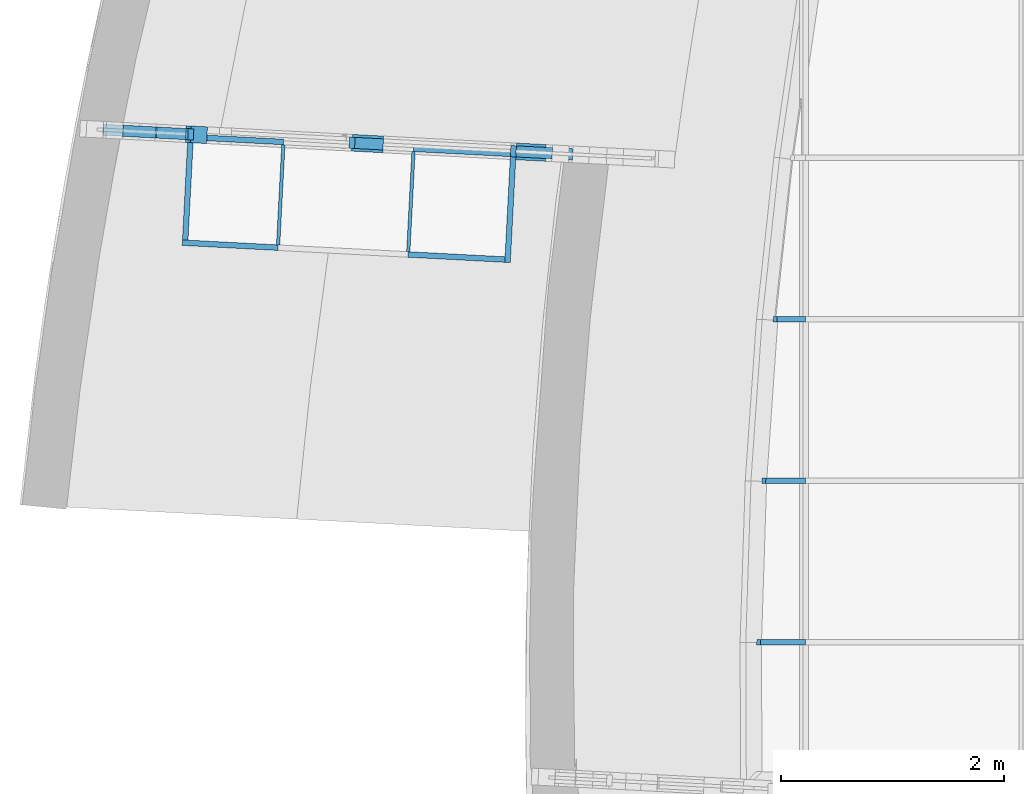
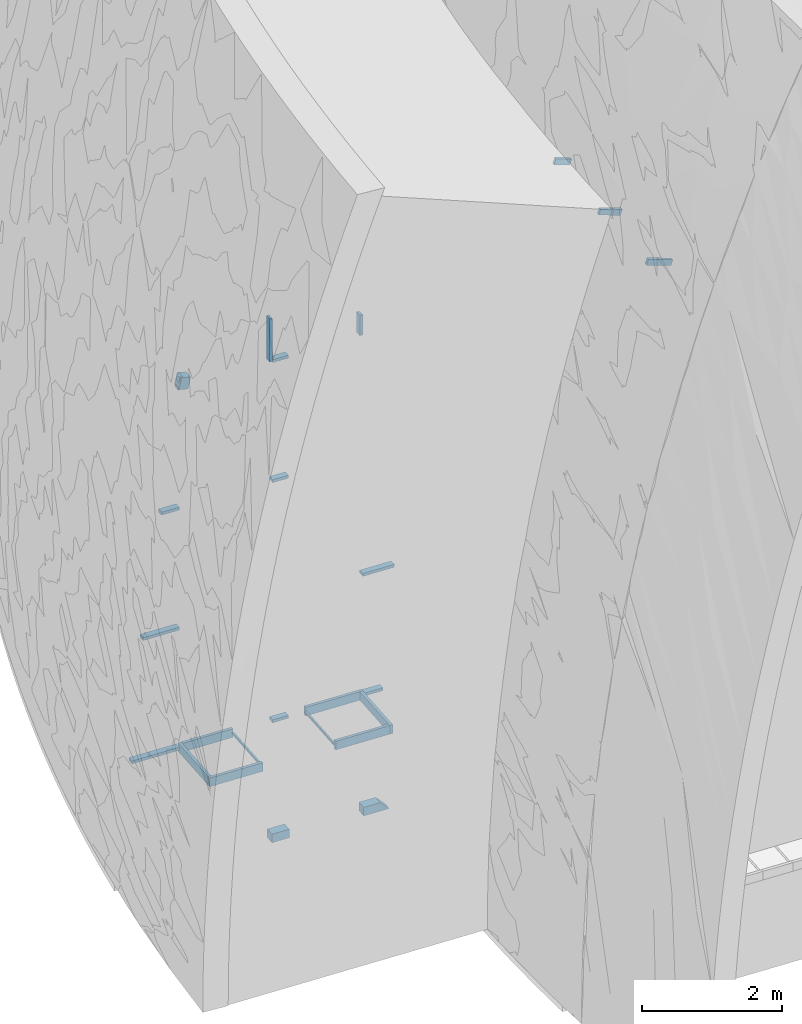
# One storey, part 26 of 82: 27 members, 3 elements without a shape of their own.
"""IFC2X3 building model written with IfcOpenShell, lengths in millimetres."""

from ifc_helpers import new_model, entity, si_unit, converted_unit, derived_unit, direction, frame, origin, origin_2d_with_axis, place, context, subcontext, project, spatial, polyline, rectangle, extrude, clip, halfspace, bounded_halfspace, source, transform, mapped, material, type_object, type_shapes, element, aggregate, save


model = new_model("IFC2X3")

# Units and contexts
model_context = context("Model", 3, precision=0.01, world=origin(), true_north=direction((6.12303176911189e-17, 1.0)))
body_context = subcontext(model_context, "Body", "Model", "MODEL_VIEW")
ifc_project = project(units=[si_unit("LENGTHUNIT", "METRE", prefix="MILLI"), si_unit("AREAUNIT", "SQUARE_METRE"), si_unit("VOLUMEUNIT", "CUBIC_METRE"), converted_unit("PLANEANGLEUNIT", "DEGREE", entity("IfcRatioMeasure", 0.0174532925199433), si_unit("PLANEANGLEUNIT", "RADIAN"), dimensions=[0, 0, 0, 0, 0, 0, 0]), si_unit("MASSUNIT", "GRAM", prefix="KILO"), derived_unit("MASSDENSITYUNIT", [(si_unit("MASSUNIT", "GRAM", prefix="KILO"), 1), (si_unit("LENGTHUNIT", "METRE"), -3)]), si_unit("TIMEUNIT", "SECOND"), si_unit("FREQUENCYUNIT", "HERTZ"), si_unit("THERMODYNAMICTEMPERATUREUNIT", "DEGREE_CELSIUS"), derived_unit("THERMALTRANSMITTANCEUNIT", [(si_unit("MASSUNIT", "GRAM", prefix="KILO"), 1), (si_unit("THERMODYNAMICTEMPERATUREUNIT", "KELVIN"), -1), (si_unit("TIMEUNIT", "SECOND"), -3)]), derived_unit("VOLUMETRICFLOWRATEUNIT", [(si_unit("LENGTHUNIT", "METRE"), 3), (si_unit("TIMEUNIT", "SECOND"), -1)]), si_unit("ELECTRICCURRENTUNIT", "AMPERE"), si_unit("ELECTRICVOLTAGEUNIT", "VOLT"), si_unit("POWERUNIT", "WATT"), si_unit("FORCEUNIT", "NEWTON", prefix="KILO"), si_unit("ILLUMINANCEUNIT", "LUX"), si_unit("LUMINOUSFLUXUNIT", "LUMEN"), si_unit("LUMINOUSINTENSITYUNIT", "CANDELA"), derived_unit("USERDEFINED", [(si_unit("MASSUNIT", "GRAM", prefix="KILO"), -1), (si_unit("LENGTHUNIT", "METRE"), -2), (si_unit("TIMEUNIT", "SECOND"), 3), (si_unit("LUMINOUSFLUXUNIT", "LUMEN"), 1)]), derived_unit("LINEARVELOCITYUNIT", [(si_unit("LENGTHUNIT", "METRE"), 1), (si_unit("TIMEUNIT", "SECOND"), -1)]), si_unit("PRESSUREUNIT", "PASCAL"), derived_unit("USERDEFINED", [(si_unit("LENGTHUNIT", "METRE"), -2), (si_unit("MASSUNIT", "GRAM", prefix="KILO"), 1), (si_unit("TIMEUNIT", "SECOND"), -2)])], contexts=[model_context])

# Site, building, storey
site_placement = place(None, origin())
site = spatial("IfcSite", under=ifc_project, at=site_placement, Name="表面", CompositionType="ELEMENT")
building_placement = place(site_placement, origin())
building = spatial("IfcBuilding", under=site, at=building_placement, CompositionType="ELEMENT")
storey_placement = place(building_placement, origin())
storey = spatial("IfcBuildingStorey", under=building, at=storey_placement, Name="1F", CompositionType="ELEMENT", Elevation=0.0)

# Curtain wall, members
curtain_wall_type_1 = type_object("IfcCurtainWallType", Name="幕墙系统:1450 x 2100mm", PredefinedType="NOTDEFINED")
curtain_wall_1_placement = place(storey_placement, origin())
curtain_wall_1 = element("IfcCurtainWall", 1, at=curtain_wall_1_placement, inside=storey, type_object=curtain_wall_type_1, Name="幕墙系统:1450 x 2100mm", ObjectType="幕墙系统:1450 x 2100mm")
ifc_material_1 = material(Name="木质 - 木材")
member_type_1 = type_object("IfcMemberType", Name="200 x 150mm", PredefinedType="MEMBER")
shared_shape_1 = source(origin(), body_context, "Body", "Clipping", [
    clip(extrude(rectangle(XDim=150.0, YDim=150.0, at=origin_2d_with_axis()), frame((-75.0, 0.0, -412.198359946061), z_axis=(0.0, 0.0, 1.0), x_axis=(0.0, -1.0, 0.0)), (0.0, 0.0, 1.0), 412.19835994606), halfspace(frame((0.0, -304.8, -412.198359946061), z_axis=(-0.6968225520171, 0.0, -0.717243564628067), x_axis=(-0.717243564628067, 0.0, 0.6968225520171)), False)),
])
type_shapes(member_type_1, [shared_shape_1])
member_1_placement = place(storey_placement, frame((-41311.980661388, -14439.9416476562, 0.0), z_axis=(-0.998629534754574, 0.0523359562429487, 0.0), x_axis=(0.0, 0.0, -1.0)))
member_1 = element("IfcMember", 2, at=member_1_placement, type_object=member_type_1, material=ifc_material_1, Name="矩形竖梃:200 x 150mm", ObjectType="200 x 150mm", context=body_context, shape_type="MappedRepresentation", body=[
    mapped(shared_shape_1, transform((0.0, 0.0, 0.0), scale=1.0)),
])
ifc_material_2 = material(Name="金属 - 铝")
member_type_2 = type_object("IfcMemberType", Name="50 x 100mm", PredefinedType="MEMBER")
shared_shape_2 = source(origin(), body_context, "Body", "Clipping", [
    clip(clip(extrude(rectangle(XDim=100.0, YDim=50.0, at=origin_2d_with_axis()), frame((0.0, 0.0, -472.864649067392), z_axis=(0.0, 0.0, 1.0), x_axis=(0.0, -1.0, 0.0)), (0.0, 0.0, 1.0), 324.472527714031), bounded_halfspace(frame((8.67025795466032, 75.0, -149.812106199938), z_axis=(-0.0866300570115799, 0.0, 0.996240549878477), x_axis=(0.996240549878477, 0.0, 0.0866300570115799)), False, frame((0.0, 0.0, -472.864649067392), z_axis=(0.0, 0.0, 1.0), x_axis=(0.0, -1.0, 0.0)), polyline([(-50.0, 25.0), (-50.0, 8.67025795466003), (50.0, 8.67025795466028), (50.0, 25.0), (-50.0, 25.0)]))), bounded_halfspace(frame((-2095.66850069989, 75.0, -210.603736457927), z_axis=(-0.0288766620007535, 0.0, 0.999582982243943), x_axis=(0.999582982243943, 0.0, 0.0288766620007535)), False, frame((0.0, 0.0, -472.864649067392), z_axis=(0.0, 0.0, 1.0), x_axis=(0.0, -1.0, 0.0)), polyline([(-50.0, 8.67025795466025), (-50.0, -25.0), (50.0, -25.0), (50.0, 8.67025795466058), (-50.0, 8.67025795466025)]))),
])
type_shapes(member_type_2, [shared_shape_2])
member_2_placement = place(storey_placement, frame((-40839.764056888, -14464.6894712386, 2100.0), z_axis=(0.998629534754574, -0.0523359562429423, 0.0), x_axis=(0.0, 0.0, 1.0)))
member_2 = element("IfcMember", 3, at=member_2_placement, type_object=member_type_2, material=ifc_material_2, Name="矩形竖梃:50 x 100mm", ObjectType="50 x 100mm", context=body_context, shape_type="MappedRepresentation", body=[
    mapped(shared_shape_2, transform((0.0, 0.0, 0.0), scale=1.0)),
])
member_type_3 = type_object("IfcMemberType", Name="50 x 100mm", PredefinedType="MEMBER")
shared_shape_3 = source(origin(), body_context, "Body", "Clipping", [
    clip(clip(extrude(rectangle(XDim=100.0, YDim=50.0, at=origin_2d_with_axis()), frame((0.0, 0.0, -655.474280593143), z_axis=(0.0, 0.0, 1.0), x_axis=(0.0, -1.0, 0.0)), (0.0, 0.0, 1.0), 507.533720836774), bounded_halfspace(frame((17.3407298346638, 75.0, -149.058148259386), z_axis=(-0.144384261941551, 0.0, 0.989521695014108), x_axis=(0.989521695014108, 0.0, 0.144384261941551)), False, frame((0.0, 0.0, -655.474280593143), z_axis=(0.0, 0.0, 1.0), x_axis=(0.0, -1.0, 0.0)), polyline([(-50.0, 25.0), (-50.0, 17.3407298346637), (50.0, 17.3407298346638), (50.0, 25.0), (-50.0, 25.0)]))), bounded_halfspace(frame((-2087.00549144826, 75.0, -332.045714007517), z_axis=(-0.0866300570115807, 0.0, 0.996240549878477), x_axis=(0.996240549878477, 0.0, 0.0866300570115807)), False, frame((0.0, 0.0, -655.474280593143), z_axis=(0.0, 0.0, 1.0), x_axis=(0.0, -1.0, 0.0)), polyline([(-50.0, 17.3407298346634), (-50.0, -25.0), (50.0, -25.0), (50.0, 17.3407298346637), (-50.0, 17.3407298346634)]))),
])
type_shapes(member_type_3, [shared_shape_3])
placement_1 = place(building_placement, frame((0.0, 0.0, 3000.0)))
member_3_placement = place(placement_1, frame((-40657.4046855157, -14474.2465209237, 1200.0), z_axis=(0.998629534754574, -0.0523359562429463, 0.0), x_axis=(0.0, 0.0, 1.0)))
member_3 = element("IfcMember", 4, at=member_3_placement, type_object=member_type_3, material=ifc_material_2, Name="矩形竖梃:50 x 100mm", ObjectType="50 x 100mm", context=body_context, shape_type="MappedRepresentation", body=[
    mapped(shared_shape_3, transform((0.0, 0.0, 0.0), scale=1.0)),
])
member_type_4 = type_object("IfcMemberType", Name="50 x 100mm", PredefinedType="MEMBER")
shared_shape_4 = source(origin(), body_context, "Body", "Clipping", [
    clip(extrude(rectangle(XDim=100.0, YDim=50.0, at=origin_2d_with_axis()), frame((0.0, 0.0, -512.028182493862), z_axis=(0.0, 0.0, 1.0), x_axis=(0.0, -1.0, 0.0)), (0.0, 0.0, 1.0), 363.440552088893), halfspace(frame((-1411.22679135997, 75.0, -532.896035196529), z_axis=(-0.25848805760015, 0.0, 0.966014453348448), x_axis=(0.966014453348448, 0.0, 0.25848805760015)), False)),
])
type_shapes(member_type_4, [shared_shape_4])
placement_2 = place(building_placement, frame((0.0, 0.0, 6000.0)))
member_4_placement = place(placement_2, frame((-41336.9463997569, -14438.6332487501, 2912.02818249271), z_axis=(0.0, 0.0, 1.0), x_axis=(-0.998629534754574, 0.0523359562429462, 0.0)))
member_4 = element("IfcMember", 5, at=member_4_placement, type_object=member_type_4, material=ifc_material_2, Name="矩形竖梃:50 x 100mm", ObjectType="50 x 100mm", context=body_context, shape_type="MappedRepresentation", body=[
    mapped(shared_shape_4, transform((0.0, 0.0, 0.0), scale=1.0)),
])
member_type_5 = type_object("IfcMemberType", Name="200 x 150mm", PredefinedType="MEMBER")
shared_shape_5 = source(origin(), body_context, "Body", "SweptSolid", [
    extrude(rectangle(XDim=150.0, YDim=150.0, at=origin_2d_with_axis()), frame((-75.0, 0.0, -280.0), z_axis=(0.0, 0.0, 1.0), x_axis=(0.0, -1.0, 0.0)), (0.0, 0.0, 1.0), 280.000000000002),
])
type_shapes(member_type_5, [shared_shape_5])
member_5_placement = place(storey_placement, frame((-42784.959225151, -14362.7461121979, 0.0), z_axis=(-0.998629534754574, 0.0523359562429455, 0.0), x_axis=(0.0, 0.0, -1.0)))
member_5 = element("IfcMember", 6, at=member_5_placement, type_object=member_type_5, material=ifc_material_1, Name="矩形竖梃:200 x 150mm", ObjectType="200 x 150mm", context=body_context, shape_type="MappedRepresentation", body=[
    mapped(shared_shape_5, transform((0.0, 0.0, 0.0), scale=1.0)),
])
member_type_6 = type_object("IfcMemberType", Name="200 x 150mm", PredefinedType="MEMBER")
shared_shape_6 = source(origin(), body_context, "Body", "SweptSolid", [
    extrude(rectangle(XDim=150.0, YDim=150.0, at=origin_2d_with_axis()), frame((-75.0, 0.0, -202.271280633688), z_axis=(0.0, 0.0, 1.0), x_axis=(0.0, -1.0, 0.0)), (0.0, 0.0, 1.0), 202.271280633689),
])
type_shapes(member_type_6, [shared_shape_6])
member_6_placement = place(placement_2, frame((-44232.9720505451, -14286.8589756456, 2597.03640641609), z_axis=(0.225723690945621, -0.0118296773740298, 0.974119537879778), x_axis=(-0.972784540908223, 0.050981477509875, 0.226033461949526)))
member_6 = element("IfcMember", 7, at=member_6_placement, type_object=member_type_6, material=ifc_material_1, Name="矩形竖梃:200 x 150mm", ObjectType="200 x 150mm", context=body_context, shape_type="MappedRepresentation", body=[
    mapped(shared_shape_6, transform((0.0, 0.0, 0.0), scale=1.0)),
])
member_type_7 = type_object("IfcMemberType", Name="50 x 100mm", PredefinedType="MEMBER")
shared_shape_7 = source(origin(), body_context, "Body", "Clipping", [
    clip(clip(extrude(rectangle(XDim=100.0, YDim=50.0, at=origin_2d_with_axis()), frame((0.0, 0.0, -763.011763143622), z_axis=(0.0, 0.0, 1.0), x_axis=(0.0, -1.0, 0.0)), (0.0, 0.0, 1.0), 763.011763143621), bounded_halfspace(frame((-8.387828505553, 75.0, -762.54747933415), z_axis=(0.0279375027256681, 0.0, -0.999609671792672), x_axis=(-0.999609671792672, 0.0, -0.0279375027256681)), False, frame((0.0, 0.0, -763.011763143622), z_axis=(0.0, 0.0, 1.0), x_axis=(0.0, -1.0, 0.0)), polyline([(50.0, -8.38782850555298), (50.0, -25.0), (-50.0, -25.0), (-50.0, -8.38782850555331), (50.0, -8.38782850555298)]))), bounded_halfspace(frame((2087.42810296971, 75.0, -586.271376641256), z_axis=(0.0838126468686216, 0.0, -0.996481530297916), x_axis=(-0.996481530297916, 0.0, -0.0838126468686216)), False, frame((0.0, 0.0, -763.011763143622), z_axis=(0.0, 0.0, 1.0), x_axis=(0.0, -1.0, 0.0)), polyline([(-50.0, 25.0), (50.0, 25.0), (50.0, -8.38782850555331), (-50.0, -8.38782850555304), (-50.0, 25.0)]))),
])
type_shapes(member_type_7, [shared_shape_7])
member_7_placement = place(storey_placement, frame((-44257.937788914, -14285.5505767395, 2100.0), z_axis=(0.998629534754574, -0.052335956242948, 0.0), x_axis=(0.0, 0.0, 1.0)))
member_7 = element("IfcMember", 8, at=member_7_placement, type_object=member_type_7, material=ifc_material_2, Name="矩形竖梃:50 x 100mm", ObjectType="50 x 100mm", context=body_context, shape_type="MappedRepresentation", body=[
    mapped(shared_shape_7, transform((0.0, 0.0, 0.0), scale=1.0)),
])
member_type_8 = type_object("IfcMemberType", Name="50 x 100mm", PredefinedType="MEMBER")
shared_shape_8 = source(origin(), body_context, "Body", "Clipping", [
    clip(clip(extrude(rectangle(XDim=100.0, YDim=50.0, at=origin_2d_with_axis()), frame((0.0, 0.0, -587.316686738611), z_axis=(0.0, 0.0, 1.0), x_axis=(0.0, -1.0, 0.0)), (0.0, 0.0, 1.0), 587.316686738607), bounded_halfspace(frame((-16.7758398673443, 75.0, -586.624964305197), z_axis=(0.0838126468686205, 0.0, -0.996481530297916), x_axis=(-0.996481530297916, 0.0, -0.0838126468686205)), False, frame((0.0, 0.0, -587.316686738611), z_axis=(0.0, 0.0, 1.0), x_axis=(0.0, -1.0, 0.0)), polyline([(50.0, -16.7758398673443), (50.0, -25.0), (-50.0, -25.0), (-50.0, -16.7758398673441), (50.0, -16.7758398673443)]))), bounded_halfspace(frame((2079.04673668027, 75.0, -290.964010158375), z_axis=(0.139688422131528, 0.0, -0.990195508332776), x_axis=(-0.990195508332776, 0.0, -0.139688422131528)), False, frame((0.0, 0.0, -587.316686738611), z_axis=(0.0, 0.0, 1.0), x_axis=(0.0, -1.0, 0.0)), polyline([(-50.0, 25.0), (50.0, 25.0), (50.0, -16.7758398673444), (-50.0, -16.7758398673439), (-50.0, 25.0)]))),
])
type_shapes(member_type_8, [shared_shape_8])
member_8_placement = place(placement_1, frame((-44257.937788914, -14285.5505767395, 1200.0), z_axis=(0.998629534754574, -0.0523359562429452, 0.0), x_axis=(0.0, 0.0, 1.0)))
member_8 = element("IfcMember", 9, at=member_8_placement, type_object=member_type_8, material=ifc_material_2, Name="矩形竖梃:50 x 100mm", ObjectType="50 x 100mm", context=body_context, shape_type="MappedRepresentation", body=[
    mapped(shared_shape_8, transform((0.0, 0.0, 0.0), scale=1.0)),
])
member_type_9 = type_object("IfcMemberType", Name="50 x 100mm", PredefinedType="MEMBER")
shared_shape_9 = source(origin(), body_context, "Body", "Clipping", [
    clip(extrude(rectangle(XDim=100.0, YDim=50.0, at=origin_2d_with_axis()), frame((0.0, 0.0, -291.525307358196), z_axis=(0.0, 0.0, 1.0), x_axis=(0.0, -1.0, 0.0)), (0.0, 0.0, 1.0), 291.525307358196), halfspace(frame((2070.66521169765, 75.0, 126.383525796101), z_axis=(0.195565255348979, 0.0, -0.980690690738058), x_axis=(-0.980690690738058, 0.0, -0.195565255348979)), False)),
])
type_shapes(member_type_9, [shared_shape_9])
member_9_placement = place(placement_2, frame((-44257.937788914, -14285.5505767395, 300.0), z_axis=(0.998629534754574, -0.0523359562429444, 0.0), x_axis=(0.0, 0.0, 1.0)))
member_9 = element("IfcMember", 10, at=member_9_placement, type_object=member_type_9, material=ifc_material_2, Name="矩形竖梃:50 x 100mm", ObjectType="50 x 100mm", context=body_context, shape_type="MappedRepresentation", body=[
    mapped(shared_shape_9, transform((0.0, 0.0, 0.0), scale=1.0)),
])
member_type_10 = type_object("IfcMemberType", Name="50 x 100mm", PredefinedType="MEMBER")
shared_shape_10 = source(origin(), body_context, "Body", "SweptSolid", [
    extrude(rectangle(XDim=100.0, YDim=50.0, at=origin_2d_with_axis()), frame((0.0, 0.0, -20.7200778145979), z_axis=(0.0, 0.0, 1.0), x_axis=(0.0, -1.0, 0.0)), (0.0, 0.0, 1.0), 20.7200778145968),
])
type_shapes(member_type_10, [shared_shape_10])
member_10_placement = place(placement_2, frame((-44257.937788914, -14285.5505767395, 2400.0), z_axis=(0.998629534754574, -0.0523359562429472, 0.0), x_axis=(0.0, 0.0, 1.0)))
member_10 = element("IfcMember", 11, at=member_10_placement, type_object=member_type_10, material=ifc_material_2, Name="矩形竖梃:50 x 100mm", ObjectType="50 x 100mm", context=body_context, shape_type="MappedRepresentation", body=[
    mapped(shared_shape_10, transform((0.0, 0.0, 0.0), scale=1.0)),
])
member_type_11 = type_object("IfcMemberType", Name="50 x 100mm", PredefinedType="MEMBER")
shared_shape_11 = source(origin(), body_context, "Body", "Clipping", [
    clip(extrude(rectangle(XDim=100.0, YDim=50.0, at=origin_2d_with_axis()), frame((0.0, 0.0, -900.022049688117), z_axis=(0.0, 0.0, 1.0), x_axis=(0.0, -1.0, 0.0)), (0.0, 0.0, 1.0), 751.43441928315), halfspace(frame((-241.226791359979, 75.0, -219.825121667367), z_axis=(-0.258488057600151, 0.0, 0.966014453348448), x_axis=(0.966014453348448, 0.0, 0.258488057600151)), False)),
])
type_shapes(member_type_11, [shared_shape_11])
member_11_placement = place(placement_2, frame((-42784.959225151, -14362.7461121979, 3300.02204968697), z_axis=(0.0, 0.0, 1.0), x_axis=(-0.998629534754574, 0.0523359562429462, 0.0)))
member_11 = element("IfcMember", 12, at=member_11_placement, type_object=member_type_11, material=ifc_material_2, Name="矩形竖梃:50 x 100mm", ObjectType="50 x 100mm", context=body_context, shape_type="MappedRepresentation", body=[
    mapped(shared_shape_11, transform((0.0, 0.0, 0.0), scale=1.0)),
])
member_type_12 = type_object("IfcMemberType", Name="50 x 100mm", PredefinedType="MEMBER")
shared_shape_12 = source(origin(), body_context, "Body", "SweptSolid", [
    extrude(rectangle(XDim=100.0, YDim=50.0, at=origin_2d_with_axis()), frame((0.0, 0.0, -197.03640641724), z_axis=(0.0, 0.0, 1.0), x_axis=(0.0, -1.0, 0.0)), (0.0, 0.0, 1.0), 197.03640641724),
])
type_shapes(member_type_12, [shared_shape_12])
member_12_placement = place(placement_2, frame((-44232.9720505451, -14286.8589756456, 2597.03640641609), z_axis=(0.0, 0.0, 1.0), x_axis=(-0.998629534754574, 0.0523359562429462, 0.0)))
member_12 = element("IfcMember", 13, at=member_12_placement, type_object=member_type_12, material=ifc_material_2, Name="矩形竖梃:50 x 100mm", ObjectType="50 x 100mm", context=body_context, shape_type="MappedRepresentation", body=[
    mapped(shared_shape_12, transform((0.0, 0.0, 0.0), scale=1.0)),
])
member_type_13 = type_object("IfcMemberType", Name="50 x 100mm", PredefinedType="MEMBER")
shared_shape_13 = source(origin(), body_context, "Body", "SweptSolid", [
    extrude(rectangle(XDim=100.0, YDim=50.0, at=origin_2d_with_axis()), frame((0.0, 0.0, -255.0), z_axis=(0.0, 0.0, 1.0), x_axis=(0.0, -1.0, 0.0)), (0.0, 0.0, 1.0), 255.000000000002),
])
type_shapes(member_type_13, [shared_shape_13])
member_13_placement = place(storey_placement, frame((-42505.3429554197, -14377.4001799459, 2100.0), z_axis=(0.998629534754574, -0.0523359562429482, 0.0), x_axis=(0.0, 0.0, 1.0)))
member_13 = element("IfcMember", 14, at=member_13_placement, type_object=member_type_13, material=ifc_material_2, Name="矩形竖梃:50 x 100mm", ObjectType="50 x 100mm", context=body_context, shape_type="MappedRepresentation", body=[
    mapped(shared_shape_13, transform((0.0, 0.0, 0.0), scale=1.0)),
])
member_14_placement = place(placement_2, frame((-42505.3429554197, -14377.4001799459, 300.0), z_axis=(0.998629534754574, -0.0523359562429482, 0.0), x_axis=(0.0, 0.0, 1.0)))
member_14 = element("IfcMember", 15, at=member_14_placement, type_object=member_type_13, material=ifc_material_2, Name="矩形竖梃:50 x 100mm", ObjectType="50 x 100mm", context=body_context, shape_type="MappedRepresentation", body=[
    mapped(shared_shape_13, transform((0.0, 0.0, 0.0), scale=1.0)),
])
member_15_placement = place(placement_2, frame((-42505.3429554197, -14377.4001799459, 2400.0), z_axis=(0.998629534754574, -0.0523359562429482, 0.0), x_axis=(0.0, 0.0, 1.0)))
member_15 = element("IfcMember", 16, at=member_15_placement, type_object=member_type_13, material=ifc_material_2, Name="矩形竖梃:50 x 100mm", ObjectType="50 x 100mm", context=body_context, shape_type="MappedRepresentation", body=[
    mapped(shared_shape_13, transform((0.0, 0.0, 0.0), scale=1.0)),
])
member_type_14 = type_object("IfcMemberType", Name="50 x 100mm", PredefinedType="MEMBER")
shared_shape_14 = source(origin(), body_context, "Body", "Clipping", [
    clip(extrude(rectangle(XDim=100.0, YDim=50.0, at=origin_2d_with_axis()), frame((0.0, 0.0, -900.022049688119), z_axis=(0.0, 0.0, 1.0), x_axis=(0.0, -1.0, 0.0)), (0.0, 0.0, 1.0), 751.434419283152), halfspace(frame((-1411.22679135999, 75.0, -532.896035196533), z_axis=(-0.25848805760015, 0.0, 0.966014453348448), x_axis=(0.966014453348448, 0.0, 0.25848805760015)), False)),
])
type_shapes(member_type_14, [shared_shape_14])
member_16_placement = place(placement_2, frame((-42784.959225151, -14362.7461121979, 3300.02204968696), z_axis=(0.0, 0.0, 1.0), x_axis=(-0.998629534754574, 0.0523359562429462, 0.0)))
member_16 = element("IfcMember", 17, at=member_16_placement, type_object=member_type_14, material=ifc_material_2, Name="矩形竖梃:50 x 100mm", ObjectType="50 x 100mm", context=body_context, shape_type="MappedRepresentation", body=[
    mapped(shared_shape_14, transform((0.0, 0.0, 0.0), scale=1.0)),
])
aggregate(curtain_wall_1, [member_1, member_2, member_3, member_4, member_5, member_6, member_7, member_8, member_9, member_10, member_11, member_12, member_13, member_14, member_15, member_16])

# Roof, member
curtain_wall_type_2 = type_object("IfcCurtainWallType", Name="玻璃斜窗:玻璃斜窗 2", PredefinedType="NOTDEFINED")
roof_placement = place(storey_placement, origin())
roof = element("IfcRoof", 18, at=roof_placement, inside=storey, type_object=curtain_wall_type_2, Name="玻璃斜窗:玻璃斜窗 2", ObjectType="玻璃斜窗:玻璃斜窗 2", ShapeType="NOTDEFINED")
member_type_15 = type_object("IfcMemberType", Name="50 x 150mm", PredefinedType="MEMBER")
shared_shape_15 = source(origin(), body_context, "Body", "SweptSolid", [
    extrude(rectangle(XDim=150.0, YDim=50.0, at=origin_2d_with_axis()), frame((-25.0, 0.0, -860.0), z_axis=(0.0, 0.0, 1.0), x_axis=(0.0, -1.0, 0.0)), (0.0, 0.0, 1.0), 859.999999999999),
])
type_shapes(member_type_15, [shared_shape_15])
member_17_placement = place(storey_placement, frame((-43451.452345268, -15329.189033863, 2100.0), z_axis=(0.998629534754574, -0.0523359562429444, 0.0), x_axis=(-0.0523359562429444, -0.998629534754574, 0.0)))
member_17 = element("IfcMember", 19, at=member_17_placement, type_object=member_type_15, material=ifc_material_2, Name="矩形竖梃:50 x 150mm", ObjectType="50 x 150mm", context=body_context, shape_type="MappedRepresentation", body=[
    mapped(shared_shape_15, transform((0.0, 0.0, 0.0), scale=1.0)),
])

# Curtain wall, members
curtain_wall_2_placement = place(storey_placement, origin())
curtain_wall_2 = element("IfcCurtainWall", 20, at=curtain_wall_2_placement, inside=storey, type_object=curtain_wall_type_1, Name="幕墙系统:1450 x 2100mm", ObjectType="幕墙系统:1450 x 2100mm")
member_type_16 = type_object("IfcMemberType", Name="50 x 100mm", PredefinedType="MEMBER")
shared_shape_16 = source(origin(), body_context, "Body", "Clipping", [
    clip(clip(extrude(rectangle(XDim=100.0, YDim=50.0, at=origin_2d_with_axis()), frame((0.0, 0.0, -424.801227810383), z_axis=(0.0, 0.0, 1.0), x_axis=(0.0, -1.0, 0.0)), (0.0, 0.0, 1.0), 276.240078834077), bounded_halfspace(frame((-1432.97093506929, 75.0, -314.715702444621), z_axis=(-0.113527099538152, 0.0, 0.993534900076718), x_axis=(0.993534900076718, 0.0, 0.113527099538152)), False, frame((0.0, 0.0, -424.801227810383), z_axis=(0.0, 0.0, 1.0), x_axis=(0.0, -1.0, 0.0)), polyline([(-50.0, 14.0496221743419), (-50.0, -25.0), (50.0, -25.0), (50.0, 14.0496221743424), (-50.0, 14.0496221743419)]))), bounded_halfspace(frame((14.0496221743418, 75.0, -149.370683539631), z_axis=(-0.0737263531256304, 0.0, 0.997278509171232), x_axis=(0.997278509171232, 0.0, 0.0737263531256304)), False, frame((0.0, 0.0, -424.801227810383), z_axis=(0.0, 0.0, 1.0), x_axis=(0.0, -1.0, 0.0)), polyline([(-50.0, 25.0), (-50.0, 14.0496221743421), (50.0, 14.0496221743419), (50.0, 25.0), (-50.0, 25.0)]))),
])
type_shapes(member_type_16, [shared_shape_16])
placement_3 = place(building_placement, frame((0.0, 0.0, 9000.0)))
member_18_placement = place(placement_3, frame((-39129.162502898, -15946.8767198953, 2562.11871273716), z_axis=(-0.939692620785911, 0.0, 0.34202014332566), x_axis=(0.0, -1.0, 0.0)))
member_18 = element("IfcMember", 21, at=member_18_placement, type_object=member_type_16, material=ifc_material_2, Name="矩形竖梃:50 x 100mm", ObjectType="50 x 100mm", context=body_context, shape_type="MappedRepresentation", body=[
    mapped(shared_shape_16, transform((0.0, 0.0, 0.0), scale=1.0)),
])
member_type_17 = type_object("IfcMemberType", Name="50 x 100mm", PredefinedType="MEMBER")
shared_shape_17 = source(origin(), body_context, "Body", "Clipping", [
    clip(clip(extrude(rectangle(XDim=100.0, YDim=50.0, at=origin_2d_with_axis()), frame((0.0, 0.0, -531.996169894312), z_axis=(0.0, 0.0, 1.0), x_axis=(0.0, -1.0, 0.0)), (0.0, 0.0, 1.0), 382.758405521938), bounded_halfspace(frame((-1438.94104703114, 75.0, -256.786718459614), z_axis=(-0.0737263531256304, 0.0, 0.997278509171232), x_axis=(0.997278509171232, 0.0, 0.0737263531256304)), False, frame((0.0, 0.0, -531.996169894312), z_axis=(0.0, 0.0, 1.0), x_axis=(0.0, -1.0, 0.0)), polyline([(-50.0, 8.07711459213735), (-50.0, -25.0), (50.0, -25.0), (50.0, 8.07711459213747), (-50.0, 8.07711459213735)]))), bounded_halfspace(frame((8.07711459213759, 75.0, -149.812216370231), z_axis=(-0.0339257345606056, 0.0, 0.999424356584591), x_axis=(0.999424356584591, 0.0, 0.0339257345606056)), False, frame((0.0, 0.0, -531.996169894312), z_axis=(0.0, 0.0, 1.0), x_axis=(0.0, -1.0, 0.0)), polyline([(-50.0, 25.0), (-50.0, 8.07711459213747), (50.0, 8.07711459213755), (50.0, 25.0), (-50.0, 25.0)]))),
])
type_shapes(member_type_17, [shared_shape_17])
member_19_placement = place(placement_3, frame((-39229.8927989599, -17396.8767198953, 2598.78154219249), z_axis=(-0.939692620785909, 0.0, 0.342020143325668), x_axis=(0.0, -1.0, 0.0)))
member_19 = element("IfcMember", 22, at=member_19_placement, type_object=member_type_17, material=ifc_material_2, Name="矩形竖梃:50 x 100mm", ObjectType="50 x 100mm", context=body_context, shape_type="MappedRepresentation", body=[
    mapped(shared_shape_17, transform((0.0, 0.0, 0.0), scale=1.0)),
])
member_type_18 = type_object("IfcMemberType", Name="50 x 100mm", PredefinedType="MEMBER")
shared_shape_18 = source(origin(), body_context, "Body", "Clipping", [
    clip(clip(extrude(rectangle(XDim=100.0, YDim=50.0, at=origin_2d_with_axis()), frame((0.0, 0.0, -581.216818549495), z_axis=(0.0, 0.0, 1.0), x_axis=(0.0, -1.0, 0.0)), (0.0, 0.0, 1.0), 431.206961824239), bounded_halfspace(frame((-1444.91113981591, 75.0, -199.134302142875), z_axis=(-0.0339257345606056, 0.0, 0.999424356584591), x_axis=(0.999424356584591, 0.0, 0.0339257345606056)), False, frame((0.0, 0.0, -581.216818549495), z_axis=(0.0, 0.0, 1.0), x_axis=(0.0, -1.0, 0.0)), polyline([(-50.0, 2.25479159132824), (-50.0, -25.0), (50.0, -25.0), (50.0, 2.25479159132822), (-50.0, 2.25479159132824)]))), bounded_halfspace(frame((2.25479159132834, 75.0, -150.009856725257), z_axis=(0.0038725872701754, 0.0, 0.999992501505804), x_axis=(0.999992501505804, 0.0, -0.0038725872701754)), False, frame((0.0, 0.0, -581.216818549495), z_axis=(0.0, 0.0, 1.0), x_axis=(0.0, -1.0, 0.0)), polyline([(-50.0, 25.0), (-50.0, 2.25479159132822), (50.0, 2.25479159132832), (50.0, 25.0), (-50.0, 25.0)]))),
])
type_shapes(member_type_18, [shared_shape_18])
member_20_placement = place(placement_3, frame((-39276.1450792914, -18846.8767198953, 2615.61599550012), z_axis=(-0.939692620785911, 0.0, 0.342020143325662), x_axis=(0.0, -1.0, 0.0)))
member_20 = element("IfcMember", 23, at=member_20_placement, type_object=member_type_18, material=ifc_material_2, Name="矩形竖梃:50 x 100mm", ObjectType="50 x 100mm", context=body_context, shape_type="MappedRepresentation", body=[
    mapped(shared_shape_18, transform((0.0, 0.0, 0.0), scale=1.0)),
])
aggregate(curtain_wall_2, [member_18, member_19, member_20])

# Member
member_type_19 = type_object("IfcMemberType", Name="50 x 150mm", PredefinedType="MEMBER")
shared_shape_19 = source(origin(), body_context, "Body", "SweptSolid", [
    extrude(rectangle(XDim=150.0, YDim=50.0, at=origin_2d_with_axis()), frame((-25.0, 0.0, -870.0), z_axis=(0.0, 0.0, 1.0), x_axis=(0.0, -1.0, 0.0)), (0.0, 0.0, 1.0), 870.000000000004),
])
type_shapes(member_type_19, [shared_shape_19])
member_21_placement = place(storey_placement, frame((-41414.2480943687, -15435.9543845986, 2100.0), z_axis=(0.998629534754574, -0.0523359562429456, 0.0), x_axis=(-0.0523359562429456, -0.998629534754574, 0.0)))
member_21 = element("IfcMember", 24, at=member_21_placement, type_object=member_type_19, material=ifc_material_2, Name="矩形竖梃:50 x 150mm", ObjectType="50 x 150mm", context=body_context, shape_type="MappedRepresentation", body=[
    mapped(shared_shape_19, transform((0.0, 0.0, 0.0), scale=1.0)),
])

member_type_20 = type_object("IfcMemberType", Name="50 x 150mm", PredefinedType="MEMBER")
shared_shape_20 = source(origin(), body_context, "Body", "SweptSolid", [
    extrude(rectangle(XDim=150.0, YDim=50.0, at=origin_2d_with_axis()), frame((-25.0, 0.0, -810.0), z_axis=(0.0, 0.0, 1.0), x_axis=(0.0, -1.0, 0.0)), (0.0, 0.0, 1.0), 809.999999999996),
])
type_shapes(member_type_20, [shared_shape_20])
member_22_placement = place(storey_placement, frame((-44208.0063121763, -14288.1673745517, 2100.0), z_axis=(-0.998629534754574, 0.0523359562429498, 0.0), x_axis=(0.0523359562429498, 0.998629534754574, 0.0)))
member_22 = element("IfcMember", 25, at=member_22_placement, type_object=member_type_20, material=ifc_material_2, Name="矩形竖梃:50 x 150mm", ObjectType="50 x 150mm", context=body_context, shape_type="MappedRepresentation", body=[
    mapped(shared_shape_20, transform((0.0, 0.0, 0.0), scale=1.0)),
])

member_type_21 = type_object("IfcMemberType", Name="50 x 150mm", PredefinedType="MEMBER")
shared_shape_21 = source(origin(), body_context, "Body", "SweptSolid", [
    extrude(rectangle(XDim=150.0, YDim=50.0, at=origin_2d_with_axis()), frame((-25.0, 0.0, -950.0), z_axis=(0.0, 0.0, 1.0), x_axis=(0.0, -1.0, 0.0)), (0.0, 0.0, 1.0), 950.000000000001),
])
type_shapes(member_type_21, [shared_shape_21])
member_23_placement = place(storey_placement, frame((-44307.6569473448, -15234.2486347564, 2100.0), z_axis=(-0.0523359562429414, -0.998629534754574, 0.0), x_axis=(-0.998629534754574, 0.0523359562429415, 0.0)))
member_23 = element("IfcMember", 26, at=member_23_placement, type_object=member_type_21, material=ifc_material_2, Name="矩形竖梃:50 x 150mm", ObjectType="50 x 150mm", context=body_context, shape_type="MappedRepresentation", body=[
    mapped(shared_shape_21, transform((0.0, 0.0, 0.0), scale=1.0)),
])

member_24_placement = place(storey_placement, frame((-41314.5974592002, -14489.8731243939, 2100.0), z_axis=(0.0523359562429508, 0.998629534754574, 0.0), x_axis=(0.998629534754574, -0.0523359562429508, 0.0)))
member_24 = element("IfcMember", 27, at=member_24_placement, type_object=member_type_21, material=ifc_material_2, Name="矩形竖梃:50 x 150mm", ObjectType="50 x 150mm", context=body_context, shape_type="MappedRepresentation", body=[
    mapped(shared_shape_21, transform((0.0, 0.0, 0.0), scale=1.0)),
])

member_type_22 = type_object("IfcMemberType", Name="50 x 150mm", PredefinedType="MEMBER")
shared_shape_22 = source(origin(), body_context, "Body", "SweptSolid", [
    extrude(rectangle(XDim=150.0, YDim=50.0, at=origin_2d_with_axis()), frame((-25.0, 0.0, -920.0), z_axis=(0.0, 0.0, 1.0), x_axis=(0.0, -1.0, 0.0)), (0.0, 0.0, 1.0), 920.000000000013),
])
type_shapes(member_type_22, [shared_shape_22])
member_25_placement = place(storey_placement, frame((-42230.7198333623, -14391.7925679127, 2100.0), z_axis=(-0.998629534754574, 0.0523359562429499, 0.0), x_axis=(0.0523359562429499, 0.998629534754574, 0.0)))
member_25 = element("IfcMember", 28, at=member_25_placement, type_object=member_type_22, material=ifc_material_2, Name="矩形竖梃:50 x 150mm", ObjectType="50 x 150mm", context=body_context, shape_type="MappedRepresentation", body=[
    mapped(shared_shape_22, transform((0.0, 0.0, 0.0), scale=1.0)),
])

member_type_23 = type_object("IfcMemberType", Name="30mm 正方形", PredefinedType="MEMBER")
shared_shape_23 = source(origin(), body_context, "Body", "SweptSolid", [
    extrude(rectangle(XDim=30.0, YDim=30.0, at=origin_2d_with_axis()), frame((0.0, 0.0, -900.0), z_axis=(0.0, 0.0, 1.0), x_axis=(0.0, -1.0, 0.0)), (0.0, 0.0, 1.0), 899.999999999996),
])
type_shapes(member_type_23, [shared_shape_23])
member_26_placement = place(storey_placement, frame((-42233.3366311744, -14441.7240446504, 2100.0), z_axis=(0.0523359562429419, 0.998629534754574, 0.0), x_axis=(0.998629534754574, -0.0523359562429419, 0.0)))
member_26 = element("IfcMember", 29, at=member_26_placement, type_object=member_type_23, material=ifc_material_2, Name="矩形竖梃:30mm 正方形", ObjectType="30mm 正方形", context=body_context, shape_type="MappedRepresentation", body=[
    mapped(shared_shape_23, transform((0.0, 0.0, 0.0), scale=1.0)),
])

member_27_placement = place(storey_placement, frame((-43401.7331868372, -14380.4909758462, 2100.0), z_axis=(0.0523359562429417, 0.998629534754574, 0.0), x_axis=(0.998629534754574, -0.0523359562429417, 0.0)))
member_27 = element("IfcMember", 30, at=member_27_placement, type_object=member_type_23, material=ifc_material_2, Name="矩形竖梃:30mm 正方形", ObjectType="30mm 正方形", context=body_context, shape_type="MappedRepresentation", body=[
    mapped(shared_shape_23, transform((0.0, 0.0, 0.0), scale=1.0)),
])

aggregate(roof, [member_21, member_22, member_23, member_24, member_17, member_25, member_26, member_27])

save(model, "model.ifc")
